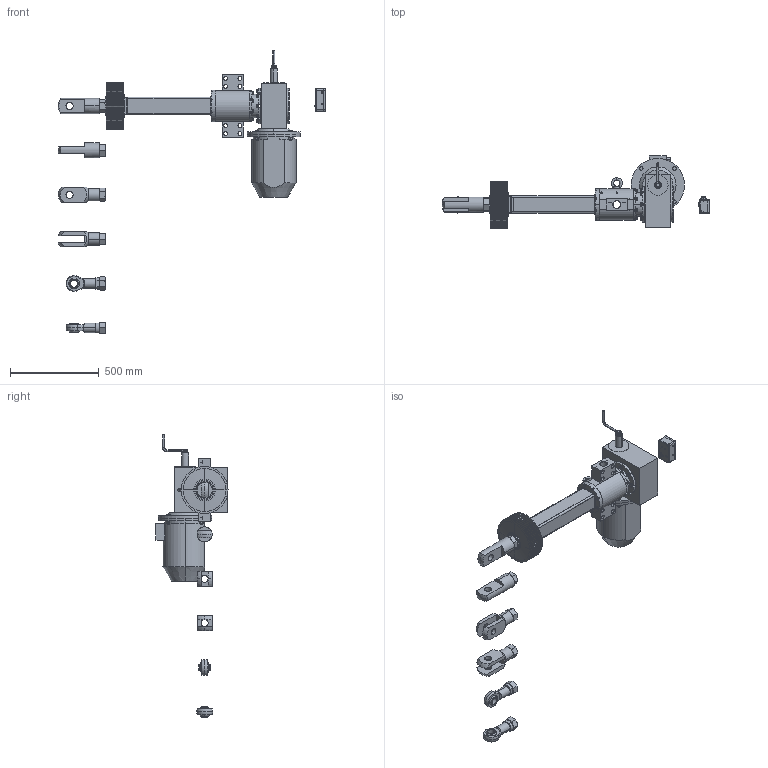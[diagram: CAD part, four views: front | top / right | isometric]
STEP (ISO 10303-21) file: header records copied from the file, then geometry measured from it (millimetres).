
FILE_DESCRIPTION (( 'STEP AP203' ), '1' );
FILE_NAME ('Ì4 6 300.STEP', '2016-12-22T08:27:58', ( '' ), ( '' ), 'SwSTEP 2.0', 'SolidWorks 2012', '' );
FILE_SCHEMA (( 'CONFIG_CONTROL_DESIGN' ));
Products named in the file (9): ﾌ4 6 300; Ãîôð Ñ4_•®¤600; 迕 6; 苂 6; 迍 6; ﾁﾑﾏ; Ñ4 6 ïåðåä áàçà; ﾒ矜 6_300; ﾌ4 6 矜鈞
Assembly tree (11 placements, depth 2):
  ﾌ4 6 300
    ﾌ4 6 矜鈞
    ﾒ矜 6_300
    Ñ4 6 ïåðåä áàçà
    ﾁﾑﾏ
    迍 6  x2
    苂 6  x2
    迕 6  x2
    Ãîôð Ñ4_•®¤600
Bounding box: 1508 x 406 x 1596 mm (x, y, z)
Volume: 710152.4 mm3; surface area: 5848566.8 mm2
Topology: 1 solids, 211 shells, 1899 faces, 5158 edges, 3490 vertices
Faces by surface type: plane 756, cylinder 603, cone 404, sphere 64, torus 60, bspline 12
Entity records: 60711 total; most frequent: CARTESIAN_POINT 14523, DIRECTION 10102, ORIENTED_EDGE 8162, EDGE_CURVE 4800, AXIS2_PLACEMENT_3D 4049, VERTEX_POINT 3272, CIRCLE 2253, EDGE_LOOP 2120
